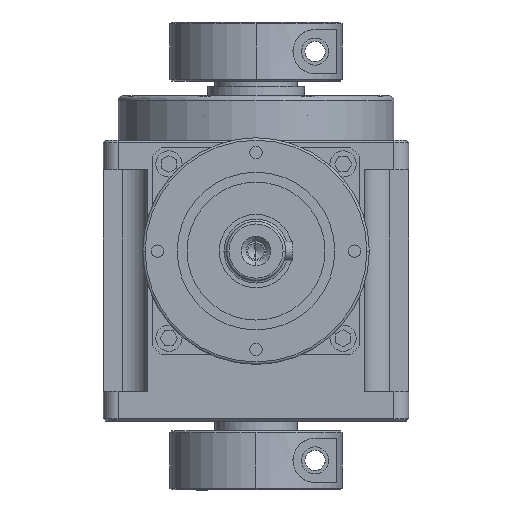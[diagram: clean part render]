
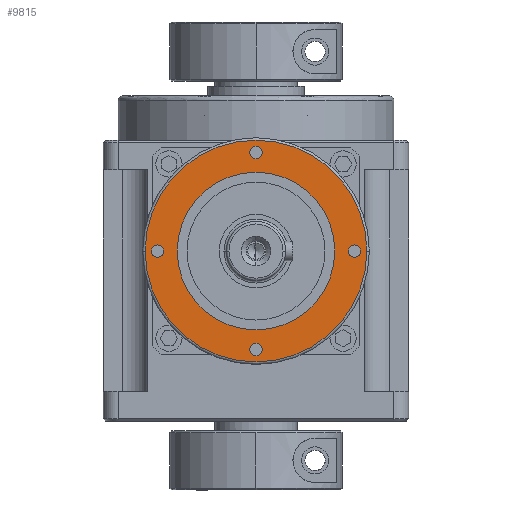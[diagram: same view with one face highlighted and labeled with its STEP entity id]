
A CAD part, front view. The second image highlights one B-rep face of the part: STEP entity #9815.
In plain terms, the highlighted planar face has unit normal (0, -1, 0).
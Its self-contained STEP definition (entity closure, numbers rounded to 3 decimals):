
#20 = EDGE_CURVE ( 'NONE', #1496, #3758, #8239, .T. ) ;
#70 = DIRECTION ( 'NONE',  ( 1., 0., 0. ) ) ;
#548 = AXIS2_PLACEMENT_3D ( 'NONE', #2550, #7673, #6564 ) ;
#723 = VERTEX_POINT ( 'NONE', #1820 ) ;
#877 = EDGE_CURVE ( 'NONE', #723, #1578, #6309, .T. ) ;
#1070 = CARTESIAN_POINT ( 'NONE',  ( 0., -60.5, 0. ) ) ;
#1123 = CARTESIAN_POINT ( 'NONE',  ( -20., -60.5, 0. ) ) ;
#1127 = DIRECTION ( 'NONE',  ( 0., -1., 0. ) ) ;
#1141 = CARTESIAN_POINT ( 'NONE',  ( -22.5, -60.5, 0. ) ) ;
#1146 = DIRECTION ( 'NONE',  ( 1., 0., 0. ) ) ;
#1334 = CARTESIAN_POINT ( 'NONE',  ( 1.25, -60.5, 20. ) ) ;
#1496 = VERTEX_POINT ( 'NONE', #9835 ) ;
#1578 = VERTEX_POINT ( 'NONE', #6470 ) ;
#1636 = ORIENTED_EDGE ( 'NONE', *, *, #6012, .F. ) ;
#1658 = VERTEX_POINT ( 'NONE', #6340 ) ;
#1800 = CIRCLE ( 'NONE', #10426, 1.25 ) ;
#1820 = CARTESIAN_POINT ( 'NONE',  ( -1.25, -60.5, -20. ) ) ;
#1869 = CIRCLE ( 'NONE', #6078, 1.25 ) ;
#1905 = DIRECTION ( 'NONE',  ( 0., -1., 0. ) ) ;
#1977 = FACE_BOUND ( 'NONE', #8833, .T. ) ;
#2045 = AXIS2_PLACEMENT_3D ( 'NONE', #10794, #1905, #4921 ) ;
#2085 = CIRCLE ( 'NONE', #8600, 16. ) ;
#2348 = ORIENTED_EDGE ( 'NONE', *, *, #20, .T. ) ;
#2453 = DIRECTION ( 'NONE',  ( 0., -1., 0. ) ) ;
#2509 = CARTESIAN_POINT ( 'NONE',  ( 0., -60.5, 0. ) ) ;
#2550 = CARTESIAN_POINT ( 'NONE',  ( 0., -60.5, 0. ) ) ;
#2682 = CIRCLE ( 'NONE', #6041, 1.25 ) ;
#2694 = ORIENTED_EDGE ( 'NONE', *, *, #4596, .F. ) ;
#3057 = CARTESIAN_POINT ( 'NONE',  ( 0., -60.5, 0. ) ) ;
#3163 = VERTEX_POINT ( 'NONE', #9227 ) ;
#3271 = DIRECTION ( 'NONE',  ( 1., 0., 0. ) ) ;
#3306 = DIRECTION ( 'NONE',  ( 0., -1., 0. ) ) ;
#3413 = VERTEX_POINT ( 'NONE', #9726 ) ;
#3578 = ORIENTED_EDGE ( 'NONE', *, *, #7101, .F. ) ;
#3758 = VERTEX_POINT ( 'NONE', #1141 ) ;
#3776 = EDGE_CURVE ( 'NONE', #7878, #3413, #1800, .T. ) ;
#4097 = EDGE_CURVE ( 'NONE', #11584, #12546, #8964, .T. ) ;
#4136 = CIRCLE ( 'NONE', #4355, 1.25 ) ;
#4147 = ORIENTED_EDGE ( 'NONE', *, *, #4097, .F. ) ;
#4355 = AXIS2_PLACEMENT_3D ( 'NONE', #8040, #7977, #8235 ) ;
#4532 = CIRCLE ( 'NONE', #12745, 1.25 ) ;
#4596 = EDGE_CURVE ( 'NONE', #1578, #723, #4136, .T. ) ;
#4703 = EDGE_LOOP ( 'NONE', ( #12855, #1636 ) ) ;
#4921 = DIRECTION ( 'NONE',  ( 1., 0., 0. ) ) ;
#5238 = CARTESIAN_POINT ( 'NONE',  ( 0., -60.5, 20. ) ) ;
#5265 = CIRCLE ( 'NONE', #6324, 16. ) ;
#5303 = ORIENTED_EDGE ( 'NONE', *, *, #10457, .F. ) ;
#5344 = CARTESIAN_POINT ( 'NONE',  ( 20., -60.5, 0. ) ) ;
#5396 = PLANE ( 'NONE',  #6937 ) ;
#5673 = CARTESIAN_POINT ( 'NONE',  ( 20., -60.5, 0. ) ) ;
#5872 = FACE_BOUND ( 'NONE', #6291, .T. ) ;
#5991 = FACE_BOUND ( 'NONE', #12045, .T. ) ;
#6012 = EDGE_CURVE ( 'NONE', #3413, #7878, #9823, .T. ) ;
#6041 = AXIS2_PLACEMENT_3D ( 'NONE', #5673, #2453, #9506 ) ;
#6057 = VERTEX_POINT ( 'NONE', #8691 ) ;
#6078 = AXIS2_PLACEMENT_3D ( 'NONE', #5344, #6479, #8191 ) ;
#6291 = EDGE_LOOP ( 'NONE', ( #9987, #4147 ) ) ;
#6309 = CIRCLE ( 'NONE', #8839, 1.25 ) ;
#6324 = AXIS2_PLACEMENT_3D ( 'NONE', #1070, #1127, #9792 ) ;
#6340 = CARTESIAN_POINT ( 'NONE',  ( 18.75, -60.5, 0. ) ) ;
#6370 = CARTESIAN_POINT ( 'NONE',  ( 0., -60.5, -20. ) ) ;
#6460 = DIRECTION ( 'NONE',  ( 0., -1., 0. ) ) ;
#6470 = CARTESIAN_POINT ( 'NONE',  ( 1.25, -60.5, -20. ) ) ;
#6479 = DIRECTION ( 'NONE',  ( 0., -1., 0. ) ) ;
#6564 = DIRECTION ( 'NONE',  ( 1., 0., 0. ) ) ;
#6674 = CARTESIAN_POINT ( 'NONE',  ( -21.25, -60.5, 0. ) ) ;
#6937 = AXIS2_PLACEMENT_3D ( 'NONE', #11204, #3306, #7239 ) ;
#7101 = EDGE_CURVE ( 'NONE', #1658, #6057, #1869, .T. ) ;
#7239 = DIRECTION ( 'NONE',  ( 1., 0., 0. ) ) ;
#7482 = DIRECTION ( 'NONE',  ( 0., -1., 0. ) ) ;
#7634 = EDGE_CURVE ( 'NONE', #3758, #1496, #11703, .T. ) ;
#7673 = DIRECTION ( 'NONE',  ( 0., -1., 0. ) ) ;
#7878 = VERTEX_POINT ( 'NONE', #1334 ) ;
#7977 = DIRECTION ( 'NONE',  ( 0., -1., 0. ) ) ;
#8034 = AXIS2_PLACEMENT_3D ( 'NONE', #2509, #6460, #10476 ) ;
#8040 = CARTESIAN_POINT ( 'NONE',  ( 0., -60.5, -20. ) ) ;
#8191 = DIRECTION ( 'NONE',  ( 1., 0., 0. ) ) ;
#8235 = DIRECTION ( 'NONE',  ( 1., 0., 0. ) ) ;
#8239 = CIRCLE ( 'NONE', #8034, 22.5 ) ;
#8414 = CARTESIAN_POINT ( 'NONE',  ( -20., -60.5, 0. ) ) ;
#8451 = EDGE_CURVE ( 'NONE', #6057, #1658, #2682, .T. ) ;
#8485 = EDGE_LOOP ( 'NONE', ( #2348, #10800 ) ) ;
#8600 = AXIS2_PLACEMENT_3D ( 'NONE', #3057, #11878, #10165 ) ;
#8684 = EDGE_CURVE ( 'NONE', #12546, #11584, #4532, .T. ) ;
#8691 = CARTESIAN_POINT ( 'NONE',  ( 21.25, -60.5, 0. ) ) ;
#8832 = ORIENTED_EDGE ( 'NONE', *, *, #9339, .F. ) ;
#8833 = EDGE_LOOP ( 'NONE', ( #12407, #3578 ) ) ;
#8839 = AXIS2_PLACEMENT_3D ( 'NONE', #6370, #10184, #1146 ) ;
#8906 = FACE_BOUND ( 'NONE', #12366, .T. ) ;
#8964 = CIRCLE ( 'NONE', #11697, 1.25 ) ;
#9101 = DIRECTION ( 'NONE',  ( 1., 0., 0. ) ) ;
#9227 = CARTESIAN_POINT ( 'NONE',  ( 16., -60.5, 0. ) ) ;
#9270 = DIRECTION ( 'NONE',  ( 0., -1., 0. ) ) ;
#9339 = EDGE_CURVE ( 'NONE', #11466, #3163, #2085, .T. ) ;
#9506 = DIRECTION ( 'NONE',  ( 1., 0., 0. ) ) ;
#9726 = CARTESIAN_POINT ( 'NONE',  ( -1.25, -60.5, 20. ) ) ;
#9792 = DIRECTION ( 'NONE',  ( 1., 0., 0. ) ) ;
#9815 = ADVANCED_FACE ( 'NONE', ( #1977, #5991, #5872, #9897, #8906, #12916 ), #5396, .T. ) ;
#9823 = CIRCLE ( 'NONE', #2045, 1.25 ) ;
#9835 = CARTESIAN_POINT ( 'NONE',  ( 22.5, -60.5, 0. ) ) ;
#9897 = FACE_BOUND ( 'NONE', #4703, .T. ) ;
#9987 = ORIENTED_EDGE ( 'NONE', *, *, #8684, .F. ) ;
#10046 = CARTESIAN_POINT ( 'NONE',  ( -18.75, -60.5, 0. ) ) ;
#10165 = DIRECTION ( 'NONE',  ( 1., 0., 0. ) ) ;
#10184 = DIRECTION ( 'NONE',  ( 0., -1., 0. ) ) ;
#10226 = DIRECTION ( 'NONE',  ( 0., -1., 0. ) ) ;
#10426 = AXIS2_PLACEMENT_3D ( 'NONE', #5238, #9270, #3271 ) ;
#10457 = EDGE_CURVE ( 'NONE', #3163, #11466, #5265, .T. ) ;
#10476 = DIRECTION ( 'NONE',  ( 1., 0., 0. ) ) ;
#10794 = CARTESIAN_POINT ( 'NONE',  ( 0., -60.5, 20. ) ) ;
#10800 = ORIENTED_EDGE ( 'NONE', *, *, #7634, .T. ) ;
#11204 = CARTESIAN_POINT ( 'NONE',  ( 0., -60.5, 0. ) ) ;
#11466 = VERTEX_POINT ( 'NONE', #12280 ) ;
#11584 = VERTEX_POINT ( 'NONE', #6674 ) ;
#11697 = AXIS2_PLACEMENT_3D ( 'NONE', #1123, #10226, #70 ) ;
#11703 = CIRCLE ( 'NONE', #548, 22.5 ) ;
#11878 = DIRECTION ( 'NONE',  ( 0., -1., 0. ) ) ;
#12045 = EDGE_LOOP ( 'NONE', ( #2694, #12716 ) ) ;
#12280 = CARTESIAN_POINT ( 'NONE',  ( -16., -60.5, 0. ) ) ;
#12366 = EDGE_LOOP ( 'NONE', ( #5303, #8832 ) ) ;
#12407 = ORIENTED_EDGE ( 'NONE', *, *, #8451, .F. ) ;
#12546 = VERTEX_POINT ( 'NONE', #10046 ) ;
#12716 = ORIENTED_EDGE ( 'NONE', *, *, #877, .F. ) ;
#12745 = AXIS2_PLACEMENT_3D ( 'NONE', #8414, #7482, #9101 ) ;
#12855 = ORIENTED_EDGE ( 'NONE', *, *, #3776, .F. ) ;
#12916 = FACE_OUTER_BOUND ( 'NONE', #8485, .T. ) ;
